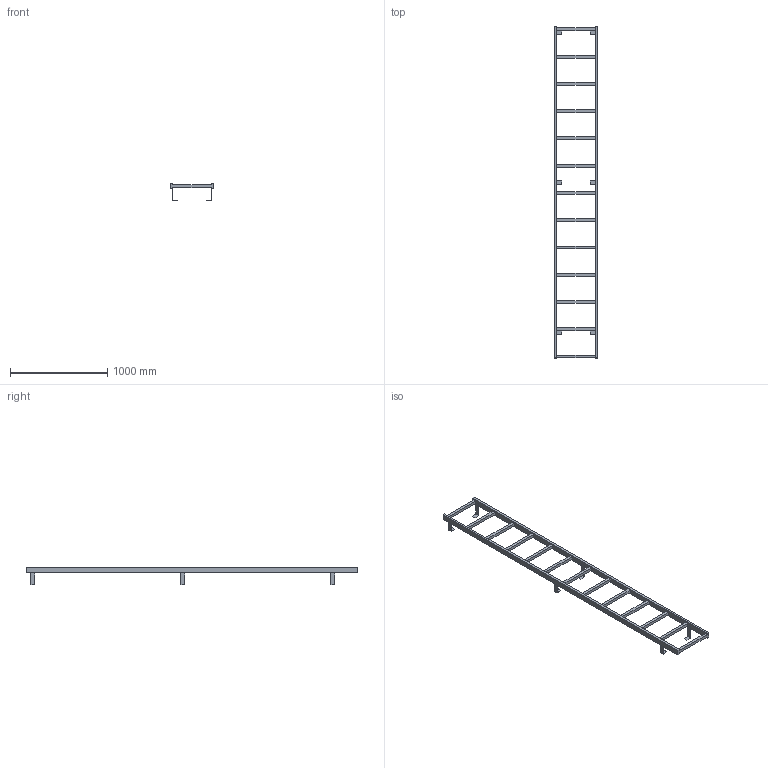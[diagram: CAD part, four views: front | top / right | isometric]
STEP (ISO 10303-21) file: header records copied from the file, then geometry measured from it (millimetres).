
FILE_DESCRIPTION((''),'2;1');
FILE_NAME('017_000109','2017-06-19T',('set'),('HUBER SE'),'PRO/ENGINEER BY PARAMETRIC TECHNOLOGY CORPORATION, 2015280','PRO/ENGINEER BY PARAMETRIC TECHNOLOGY CORPORATION, 2015280','');
FILE_SCHEMA(('CONFIG_CONTROL_DESIGN'));
Length unit declared in the file: millimetre
Products named in the file (1): 017_000109
Bounding box: 450 x 3410 x 178.5 mm (x, y, z)
Volume: 14495940 mm3; surface area: 1814132 mm2
Topology: 1 solids, 1 shells, 110 faces, 421 edges, 309 vertices
Faces by surface type: plane 110
Entity records: 4298 total; most frequent: CARTESIAN_POINT 894, ORIENTED_EDGE 640, DIRECTION 622, VECTOR 374, LINE 374, EDGE_CURVE 320, VERTEX_POINT 208, EDGE_LOOP 130
